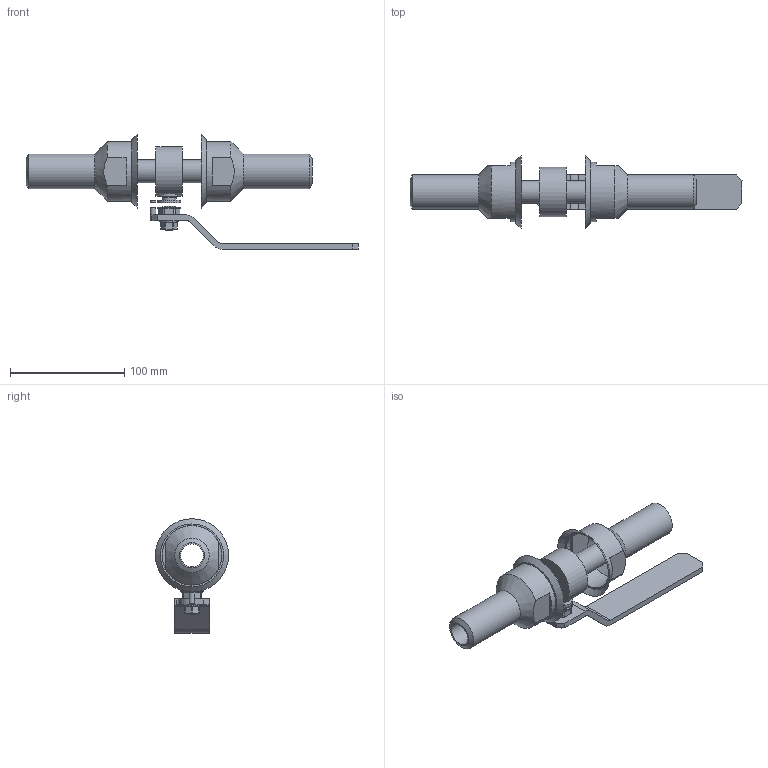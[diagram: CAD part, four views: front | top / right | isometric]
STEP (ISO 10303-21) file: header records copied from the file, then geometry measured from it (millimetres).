
FILE_DESCRIPTION(('STEP AP203'), '1');
FILE_NAME('ZARDP 020.200.40.P.stp', '2013-12-05T11:49:20', ('Øèøêî'), ('ÎÎÎ ÈÊ Ýíåðïðåä-ßðäîñ'), 'ASCON STEP Converter 1.3', 'Kompas 3D', '');
FILE_SCHEMA(('CONFIG_CONTROL_DESIGN','SUPPORT_RESOURCE_SCHEMA'));
Length unit declared in the file: millimetre
Products named in the file (1): 187
Bounding box: 290 x 64 x 100 mm (x, y, z)
Surface area: 71988 mm2
Topology: 3 solids, 4 shells, 154 faces, 367 edges, 226 vertices
Faces by surface type: plane 84, cylinder 44, cone 25, torus 1
Full cylindrical faces by diameter (mm): 5 x2, 8 x1, 10.7 x1, 10.917 x1, 12 x1, 12.1 x1, 19.8 x1, 20 x3, 30 x2, 43.4 x1, 52 x2, 64 x1
Entity records: 5818 total; most frequent: CARTESIAN_POINT 2108, DIRECTION 784, ORIENTED_EDGE 732, EDGE_CURVE 367, AXIS2_PLACEMENT_3D 299, VERTEX_POINT 226, LINE 186, VECTOR 186
